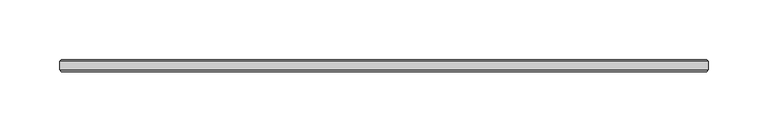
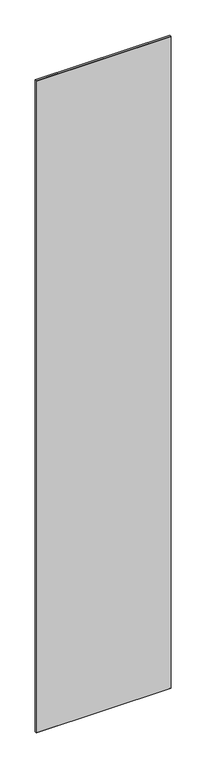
"""IFC4 building model written with IfcOpenShell, lengths in millimetres: plate geometry, 11-AMG-1-Панель одинарный витраж 10-12 : Центр Толщина 10mm."""

import ifcopenshell
import ifcopenshell.guid

model = None  # the IFC model being written
_history = None  # IfcOwnerHistory: only IFC2X3 demands one
_inside = {}  # id of a spatial element -> (the spatial element, [elements in it])
_under = {}  # id of a project, library or spatial element -> (it, [spatial elements below it])
_declared = {}  # id of a project -> (the project, [libraries it declares])
_typed = {}  # id of a type object -> (the type object, [elements of that type])
_made_of = {}  # id of a material, layer set ... -> (it, [elements and type objects made of it])


def new_model(schema):
    """Start an empty IFC model of exactly this schema.

    Asked for "IFC4X3", IfcOpenShell would pick the latest addendum, in which some entities
    have other attributes; the version numbers below select the first issue.
    IFC2X3 requires an IfcOwnerHistory on every rooted entity: one is made here for all.
    """
    global model, _history
    if schema == "IFC4X3":
        model = ifcopenshell.file(schema_version=(4, 3, 0, 0))
    else:
        model = ifcopenshell.file(schema=schema)
    _inside.clear()
    _under.clear()
    _declared.clear()
    _typed.clear()
    _made_of.clear()
    _history = None
    if model.schema == "IFC2X3":
        org = make("IfcOrganization", Name="unknown")
        user = make(
            "IfcPersonAndOrganization",
            ThePerson=make("IfcPerson", FamilyName="unknown"),
            TheOrganization=org,
        )
        app = make(
            "IfcApplication",
            ApplicationDeveloper=org,
            Version="unknown",
            ApplicationFullName="unknown",
            ApplicationIdentifier="unknown",
        )
        _history = make(
            "IfcOwnerHistory",
            OwningUser=user,
            OwningApplication=app,
            ChangeAction="ADDED",
            CreationDate=0,
        )
    return model


def make(cls, **values):
    """One entity of the class cls with the attributes given. An attribute that is None is left unset."""
    return model.create_entity(
        cls, **{name: value for name, value in values.items() if value is not None}
    )


def rooted(cls, **values):
    """An entity with a GlobalId (a new one), such as an element, a storey or a relation."""
    return make(cls, GlobalId=ifcopenshell.guid.new(), OwnerHistory=_history, **values)


def si_unit(unit_type, name, prefix=None):
    """IfcSIUnit, for example si_unit("LENGTHUNIT", "METRE", prefix="MILLI")."""
    return make("IfcSIUnit", UnitType=unit_type, Prefix=prefix, Name=name)


def assignment(units):
    """IfcUnitAssignment: the units of a project."""
    return None if units is None else make("IfcUnitAssignment", Units=units)


def point(xyz):
    """IfcCartesianPoint."""
    return None if xyz is None else make("IfcCartesianPoint", Coordinates=xyz)


def direction(xyz):
    """IfcDirection."""
    return None if xyz is None else make("IfcDirection", DirectionRatios=xyz)


def frame(location, z_axis=None, x_axis=None):
    """IfcAxis2Placement3D, a coordinate frame: its origin and axes. An axis left out is left unset."""
    return make(
        "IfcAxis2Placement3D",
        Location=point(location),
        Axis=direction(z_axis),
        RefDirection=direction(x_axis),
    )


def origin():
    """The frame at (0, 0, 0) with its axes left unset."""
    return frame((0.0, 0.0, 0.0))


def place(relative_to, where):
    """IfcLocalPlacement: puts the frame where relative to a parent placement (None: the world)."""
    return make(
        "IfcLocalPlacement", PlacementRelTo=relative_to, RelativePlacement=where
    )


def context(
    kind, dimensions, precision=None, world=None, true_north=None, identifier=None
):
    """IfcGeometricRepresentationContext, for example the 3D "Model" context."""
    return make(
        "IfcGeometricRepresentationContext",
        ContextIdentifier=identifier,
        ContextType=kind,
        CoordinateSpaceDimension=dimensions,
        Precision=precision,
        WorldCoordinateSystem=world,
        TrueNorth=true_north,
    )


def project(units=None, contexts=None):
    """IfcProject with its units and contexts."""
    return rooted(
        "IfcProject",
        Name="project",
        RepresentationContexts=contexts,
        UnitsInContext=assignment(units),
    )


def spatial(cls, under=None, at=None, **own):
    """A site, building, storey or space (cls), placed at a placement, below another one or the project."""
    s = rooted(cls, ObjectPlacement=at, **own)
    if under is not None:
        _under.setdefault(under.id(), (under, []))[1].append(s)
    return s


def faces_of(points, faces, orient=None, outer=None):
    """IfcFace entities. A face is a list of loops; a loop is a list of indices into points, from 0.

    orient and outer hold one flag for each loop. By default every Orientation is true, the
    first loop of a face is its IfcFaceOuterBound and the others are IfcFaceBound.
    """
    made = []
    for i, loops in enumerate(faces):
        bounds = []
        for j, loop in enumerate(loops):
            is_outer = j == 0 if outer is None else outer[i][j]
            bounds.append(
                make(
                    "IfcFaceOuterBound" if is_outer else "IfcFaceBound",
                    Bound=make("IfcPolyLoop", Polygon=[points[k] for k in loop]),
                    Orientation=True if orient is None else orient[i][j],
                )
            )
        made.append(make("IfcFace", Bounds=bounds))
    return made


def faceted_brep(points, faces, orient=None, outer=None, voids=None):
    """IfcFacetedBrep: a solid bounded by flat faces; with voids (closed shells), ...WithVoids."""
    shared = [point(p) for p in points]
    hull = make("IfcClosedShell", CfsFaces=faces_of(shared, faces, orient, outer))
    if voids is None:
        return make("IfcFacetedBrep", Outer=hull)
    return make(
        "IfcFacetedBrepWithVoids",
        Outer=hull,
        Voids=[
            make(cls, CfsFaces=faces_of(shared, fs, o, b)) for cls, fs, o, b in voids
        ],
    )


def shape(context_of_items, identifier, shape_type, items):
    """IfcShapeRepresentation: the items that make up one representation, for example the "Body"."""
    return make(
        "IfcShapeRepresentation",
        ContextOfItems=context_of_items,
        RepresentationIdentifier=identifier,
        RepresentationType=shape_type,
        Items=items,
    )


def source(mapping_origin, context_of_items, identifier, shape_type, items):
    """IfcRepresentationMap: a shape defined once, which mapped items show again and again."""
    return make(
        "IfcRepresentationMap",
        MappingOrigin=mapping_origin,
        MappedRepresentation=shape(context_of_items, identifier, shape_type, items),
    )


def transform(
    local_origin,
    x_axis=None,
    y_axis=None,
    z_axis=None,
    scale=None,
    scale2=None,
    scale3=None,
    uniform=True,
):
    """IfcCartesianTransformationOperator3D, or its non-uniform kind. x_axis, y_axis, z_axis: its Axis1, 2, 3."""
    if uniform:
        return make(
            "IfcCartesianTransformationOperator3D",
            Axis1=direction(x_axis),
            Axis2=direction(y_axis),
            LocalOrigin=point(local_origin),
            Scale=scale,
            Axis3=direction(z_axis),
        )
    return make(
        "IfcCartesianTransformationOperator3DnonUniform",
        Axis1=direction(x_axis),
        Axis2=direction(y_axis),
        LocalOrigin=point(local_origin),
        Scale=scale,
        Axis3=direction(z_axis),
        Scale2=scale2,
        Scale3=scale3,
    )


def mapped(mapping_source, mapping_target):
    """IfcMappedItem: shows the shape of a source again, moved by a transform."""
    return make(
        "IfcMappedItem", MappingSource=mapping_source, MappingTarget=mapping_target
    )


def made_of(thing, what):
    """Note that an element or type object is made of a material, layer set ...; save() writes the relation."""
    if what is not None:
        _made_of.setdefault(what.id(), (what, []))[1].append(thing)
    return thing


def element(
    cls,
    number,
    at=None,
    inside=None,
    cuts=None,
    type_object=None,
    material=None,
    context=None,
    identifier="Body",
    shape_type=None,
    held_by="IfcProductDefinitionShape",
    body=None,
    shapes=None,
    **own,
):
    """One element of the class cls, such as IfcWall. Its Tag is "e" and its number.

    at: its placement. inside: the storey or other place that contains it. cuts: it is an
    opening in that element (IfcRelVoidsElement). A single representation is given by context,
    identifier, shape_type and body (its items); several are given by shapes. held_by: the class
    of the entity that holds the representations. save() writes the other relations.
    """
    e = rooted(cls, Tag="e%d" % number, ObjectPlacement=at, **own)
    if body is not None:
        shapes = [shape(context, identifier, shape_type, body)]
    if shapes is not None:
        e.Representation = make(held_by, Representations=shapes)
    if inside is not None:
        _inside.setdefault(inside.id(), (inside, []))[1].append(e)
    if cuts is not None:
        rooted(
            "IfcRelVoidsElement", RelatingBuildingElement=cuts, RelatedOpeningElement=e
        )
    if type_object is not None:
        _typed.setdefault(type_object.id(), (type_object, []))[1].append(e)
    return made_of(e, material)


def aggregate(whole, parts):
    """IfcRelAggregates: a whole, such as a stair, and the parts it consists of."""
    return rooted("IfcRelAggregates", RelatingObject=whole, RelatedObjects=parts)


def save(model, path):
    """Write the relations noted so far, then the file.

    IfcRelAggregates (storeys below a building ...), IfcRelContainedInSpatialStructure (elements
    in a storey), IfcRelDefinesByType, IfcRelAssociatesMaterial and IfcRelDeclares: one each for
    every whole, place, type object, material and project.
    """
    for whole, parts in _under.values():
        aggregate(whole, parts)
    for where, things in _inside.values():
        rooted(
            "IfcRelContainedInSpatialStructure",
            RelatedElements=things,
            RelatingStructure=where,
        )
    for kind, things in _typed.values():
        rooted("IfcRelDefinesByType", RelatedObjects=things, RelatingType=kind)
    for what, things in _made_of.values():
        rooted("IfcRelAssociatesMaterial", RelatedObjects=things, RelatingMaterial=what)
    for by, libraries in _declared.values():
        rooted("IfcRelDeclares", RelatingContext=by, RelatedDefinitions=libraries)
    model.write(path)


def plate_a01993f5(model_context):
    return source(origin(), model_context, "Body", "Brep", [
        faceted_brep([(269.4, -3.4961653, 2777.6), (269.4, 3.4961653, 2777.6), (-274.4, 3.4961653, 2777.6), (-274.4, -3.4961653, 2777.6), (269.4, 3.4961653, 5.0), (269.4, -3.4961653, 5.0), (-274.4, -3.4961653, 5.0), (-274.4, 3.4961653, 5.0), (-272.8961653, 5.0, 2776.0961653), (267.8961653, 5.0, 2776.0961653), (267.8961653, 5.0, 6.4960578), (-272.8961653, 5.0, 6.4960578), (267.8961653, -5.0, 2776.0961653), (-272.8961653, -5.0, 2776.0961653), (-272.8961653, -5.0, 6.5038347), (267.8961653, -5.0, 6.5038347)], [[[0, 1, 2, 3]], [[4, 5, 6, 7]], [[8, 9, 10, 11]], [[3, 2, 7, 6]], [[12, 13, 14, 15]], [[1, 0, 5, 4]], [[1, 4, 10, 9]], [[5, 0, 12, 15]], [[7, 2, 8, 11]], [[3, 6, 14, 13]], [[0, 3, 13, 12]], [[2, 1, 9, 8]], [[6, 5, 15, 14]], [[4, 7, 11, 10]]]),
    ])


if __name__ == "__main__":
    model = new_model("IFC4")
    model_context = context("Model", 3, world=origin())
    ifc_project = project(units=[si_unit("LENGTHUNIT", "METRE", prefix="MILLI")], contexts=[model_context])
    site = spatial("IfcSite", under=ifc_project)
    building = spatial("IfcBuilding", under=site)
    placement = place(None, origin())
    plate_shape = plate_a01993f5(model_context)
    element("IfcPlate", 1, ObjectType="11-AMG-1-Панель одинарный витраж 10-12 : Центр Толщина 10mm", at=placement, inside=building, context=model_context, shape_type="MappedRepresentation", body=[
        mapped(plate_shape, transform((0.0, 0.0, 0.0), x_axis=(1.0, 0.0, 0.0), y_axis=(0.0, 1.0, 0.0), z_axis=(0.0, 0.0, 1.0))),
    ])
    save(model, "model.ifc")
